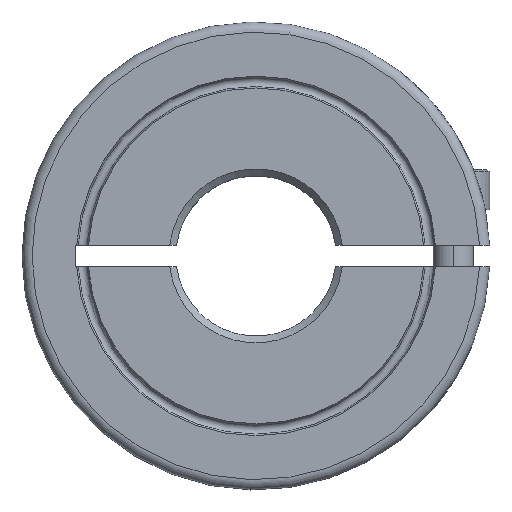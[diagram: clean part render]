
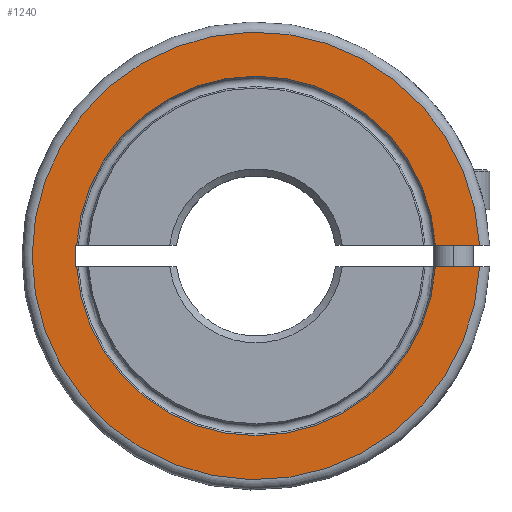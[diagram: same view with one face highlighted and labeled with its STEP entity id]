
A CAD part, top view. The second image highlights one B-rep face of the part: STEP entity #1240.
In plain terms, the highlighted planar face has unit normal (0, 0, 1).
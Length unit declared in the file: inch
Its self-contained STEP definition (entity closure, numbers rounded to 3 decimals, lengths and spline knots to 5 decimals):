
#27 = VERTEX_POINT ( 'NONE', #760 ) ;
#38 = EDGE_CURVE ( 'NONE', #852, #132, #654, .T. ) ;
#72 = DIRECTION ( 'NONE',  ( 1., 0., 0. ) ) ;
#131 = EDGE_CURVE ( 'NONE', #920, #1782, #1123, .T. ) ;
#132 = VERTEX_POINT ( 'NONE', #1510 ) ;
#139 = ORIENTED_EDGE ( 'NONE', *, *, #38, .F. ) ;
#310 = ORIENTED_EDGE ( 'NONE', *, *, #1483, .T. ) ;
#320 = EDGE_CURVE ( 'NONE', #1782, #27, #872, .T. ) ;
#339 = EDGE_LOOP ( 'NONE', ( #681, #310, #544, #1190, #1676, #612, #1468, #139 ) ) ;
#434 = CARTESIAN_POINT ( 'NONE',  ( -0.52819, -0.0315, 0.15748 ) ) ;
#450 = CARTESIAN_POINT ( 'NONE',  ( 0., 0., 0.15748 ) ) ;
#464 = CARTESIAN_POINT ( 'NONE',  ( 0.68898, -0.0315, 0.15748 ) ) ;
#511 = DIRECTION ( 'NONE',  ( 1., 0., 0. ) ) ;
#544 = ORIENTED_EDGE ( 'NONE', *, *, #320, .F. ) ;
#577 = DIRECTION ( 'NONE',  ( 1., 0., 0. ) ) ;
#598 = VECTOR ( 'NONE', #1520, 39.37008 ) ;
#612 = ORIENTED_EDGE ( 'NONE', *, *, #1155, .F. ) ;
#621 = LINE ( 'NONE', #1838, #1261 ) ;
#637 = VERTEX_POINT ( 'NONE', #892 ) ;
#645 = DIRECTION ( 'NONE',  ( 1., 0., 0. ) ) ;
#654 = CIRCLE ( 'NONE', #1840, 0.52913 ) ;
#660 = CARTESIAN_POINT ( 'NONE',  ( 0.65822, 0.0315, 0.15748 ) ) ;
#681 = ORIENTED_EDGE ( 'NONE', *, *, #1089, .F. ) ;
#760 = CARTESIAN_POINT ( 'NONE',  ( 0.65822, -0.0315, 0.15748 ) ) ;
#762 = LINE ( 'NONE', #1531, #598 ) ;
#819 = FACE_OUTER_BOUND ( 'NONE', #339, .T. ) ;
#827 = AXIS2_PLACEMENT_3D ( 'NONE', #1508, #1490, #72 ) ;
#837 = CARTESIAN_POINT ( 'NONE',  ( -0.5315, -0.0315, 0.15748 ) ) ;
#849 = DIRECTION ( 'NONE',  ( 0., -1., 0. ) ) ;
#852 = VERTEX_POINT ( 'NONE', #1708 ) ;
#867 = AXIS2_PLACEMENT_3D ( 'NONE', #1732, #1449, #577 ) ;
#872 = LINE ( 'NONE', #464, #1418 ) ;
#886 = LINE ( 'NONE', #945, #1642 ) ;
#892 = CARTESIAN_POINT ( 'NONE',  ( -0.5315, 0.0315, 0.15748 ) ) ;
#920 = VERTEX_POINT ( 'NONE', #434 ) ;
#922 = DIRECTION ( 'NONE',  ( 1., 0., 0. ) ) ;
#945 = CARTESIAN_POINT ( 'NONE',  ( 0.68898, 0.0315, 0.15748 ) ) ;
#947 = CARTESIAN_POINT ( 'NONE',  ( 0., 0., 0.15748 ) ) ;
#1006 = PLANE ( 'NONE',  #867 ) ;
#1038 = EDGE_CURVE ( 'NONE', #1148, #920, #1846, .T. ) ;
#1049 = VERTEX_POINT ( 'NONE', #660 ) ;
#1089 = EDGE_CURVE ( 'NONE', #1049, #852, #886, .T. ) ;
#1111 = CARTESIAN_POINT ( 'NONE',  ( 0.68898, -0.0315, 0.15748 ) ) ;
#1123 = CIRCLE ( 'NONE', #1332, 0.52913 ) ;
#1148 = VERTEX_POINT ( 'NONE', #837 ) ;
#1155 = EDGE_CURVE ( 'NONE', #637, #1148, #621, .T. ) ;
#1160 = CIRCLE ( 'NONE', #827, 0.65898 ) ;
#1190 = ORIENTED_EDGE ( 'NONE', *, *, #131, .F. ) ;
#1202 = DIRECTION ( 'NONE',  ( 0., 0., 1. ) ) ;
#1234 = DIRECTION ( 'NONE',  ( -1., 0., 0. ) ) ;
#1240 = ADVANCED_FACE ( 'NONE', ( #819 ), #1006, .T. ) ;
#1261 = VECTOR ( 'NONE', #849, 39.37008 ) ;
#1276 = CARTESIAN_POINT ( 'NONE',  ( 0.52819, -0.0315, 0.15748 ) ) ;
#1332 = AXIS2_PLACEMENT_3D ( 'NONE', #947, #1514, #645 ) ;
#1418 = VECTOR ( 'NONE', #511, 39.37008 ) ;
#1449 = DIRECTION ( 'NONE',  ( 0., 0., 1. ) ) ;
#1468 = ORIENTED_EDGE ( 'NONE', *, *, #1545, .F. ) ;
#1483 = EDGE_CURVE ( 'NONE', #1049, #27, #1160, .T. ) ;
#1490 = DIRECTION ( 'NONE',  ( 0., 0., 1. ) ) ;
#1508 = CARTESIAN_POINT ( 'NONE',  ( 0., 0., 0.15748 ) ) ;
#1510 = CARTESIAN_POINT ( 'NONE',  ( -0.52819, 0.0315, 0.15748 ) ) ;
#1514 = DIRECTION ( 'NONE',  ( 0., 0., 1. ) ) ;
#1520 = DIRECTION ( 'NONE',  ( -1., 0., 0. ) ) ;
#1531 = CARTESIAN_POINT ( 'NONE',  ( 0.68898, 0.0315, 0.15748 ) ) ;
#1545 = EDGE_CURVE ( 'NONE', #132, #637, #762, .T. ) ;
#1550 = VECTOR ( 'NONE', #1679, 39.37008 ) ;
#1642 = VECTOR ( 'NONE', #1234, 39.37008 ) ;
#1676 = ORIENTED_EDGE ( 'NONE', *, *, #1038, .F. ) ;
#1679 = DIRECTION ( 'NONE',  ( 1., 0., 0. ) ) ;
#1708 = CARTESIAN_POINT ( 'NONE',  ( 0.52819, 0.0315, 0.15748 ) ) ;
#1732 = CARTESIAN_POINT ( 'NONE',  ( 0., 0., 0.15748 ) ) ;
#1782 = VERTEX_POINT ( 'NONE', #1276 ) ;
#1838 = CARTESIAN_POINT ( 'NONE',  ( -0.5315, 0.0315, 0.15748 ) ) ;
#1840 = AXIS2_PLACEMENT_3D ( 'NONE', #450, #1202, #922 ) ;
#1846 = LINE ( 'NONE', #1111, #1550 ) ;
